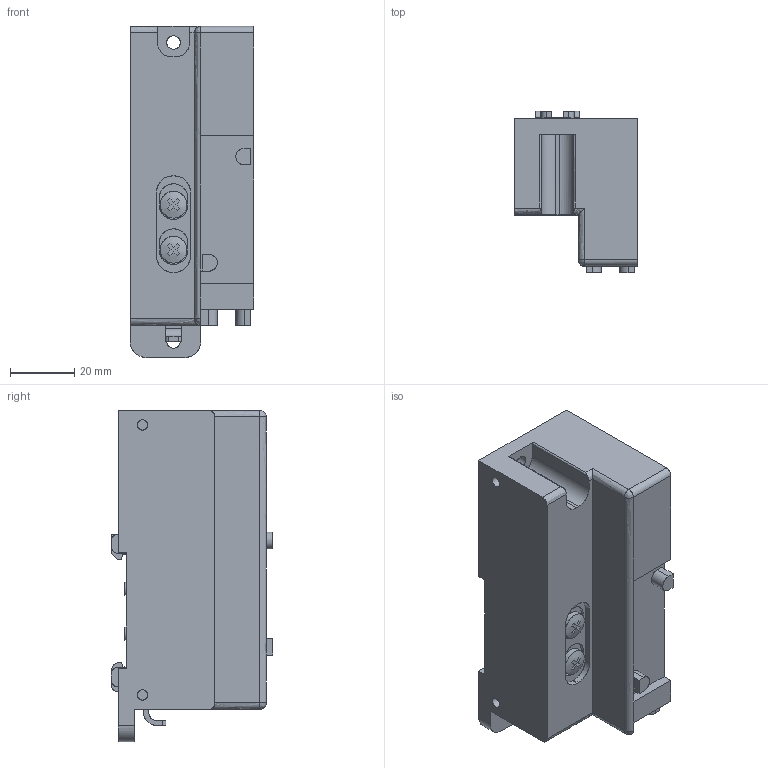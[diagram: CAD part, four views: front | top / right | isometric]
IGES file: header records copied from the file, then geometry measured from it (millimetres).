
Start section: ------------------------------------------------------------------------
Global section: file name: D:\ICADMX\tmp\trans3d_spg\CVICAD02.9116.F10ZX-LK-DN_7837.igs; native system: spGate; preprocessor: ver12.6.6; author: Unknown; organization: Unknown; date: 200901.142041; units: millimetre
Bounding box: 38.5 x 50.2 x 103 mm (x, y, z)
Surface area: 21142.3 mm2 (no closed solid volume)
Topology: 0 solids, 0 shells, 489 faces, 2558 edges, 2551 vertices
Faces by surface type: bspline 489
